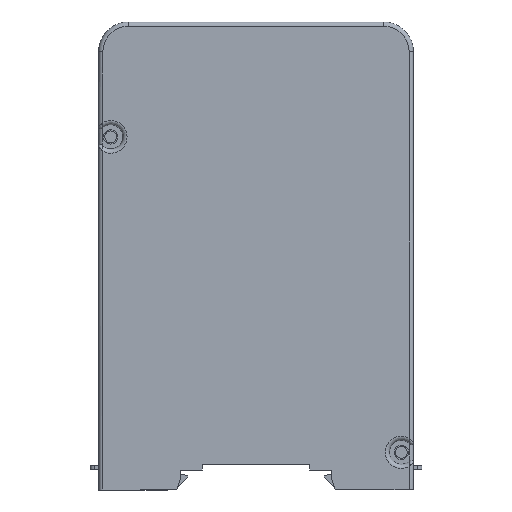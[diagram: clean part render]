
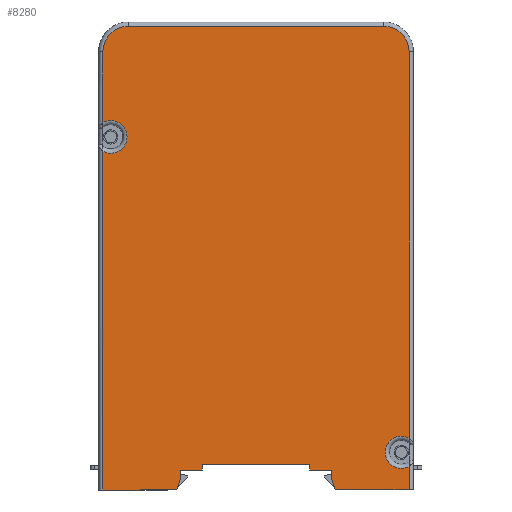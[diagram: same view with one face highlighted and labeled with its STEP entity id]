
A CAD part, left-side view. The second image highlights one B-rep face of the part: STEP entity #8280.
In plain terms, the highlighted planar face has unit normal (-1, 0, 0).
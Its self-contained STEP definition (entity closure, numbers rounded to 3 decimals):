
#201=CIRCLE('',#8729,3.8);
#229=CIRCLE('',#8787,3.85);
#230=CIRCLE('',#8788,6.);
#231=CIRCLE('',#8789,6.);
#572=FACE_OUTER_BOUND('',#959,.T.);
#959=EDGE_LOOP('',(#6826,#6827,#6828,#6829,#6830,#6831,#6832,#6833,#6834,
#6835,#6836,#6837,#6838,#6839,#6840,#6841,#6842,#6843,#6844,#6845));
#1605=LINE('',#13591,#2711);
#1719=LINE('',#13847,#2825);
#1743=LINE('',#13900,#2849);
#1758=LINE('',#13930,#2864);
#1762=LINE('',#13938,#2868);
#1769=LINE('',#13952,#2875);
#1775=LINE('',#13962,#2881);
#1782=LINE('',#13976,#2888);
#1791=LINE('',#13995,#2897);
#1795=LINE('',#14004,#2901);
#1801=LINE('',#14014,#2907);
#1802=LINE('',#14019,#2908);
#1803=LINE('',#14020,#2909);
#1804=LINE('',#14022,#2910);
#1805=LINE('',#14026,#2911);
#1806=LINE('',#14029,#2912);
#2711=VECTOR('',#10010,17.35);
#2825=VECTOR('',#10170,3.162);
#2849=VECTOR('',#10210,17.35);
#2864=VECTOR('',#10227,3.162);
#2868=VECTOR('',#10233,1.7);
#2875=VECTOR('',#10242,5.);
#2881=VECTOR('',#10250,1.3);
#2888=VECTOR('',#10259,25.3);
#2897=VECTOR('',#10274,1.3);
#2901=VECTOR('',#10280,5.);
#2907=VECTOR('',#10288,1.7);
#2908=VECTOR('',#10293,79.624);
#2909=VECTOR('',#10294,5.531);
#2910=VECTOR('',#10295,90.831);
#2911=VECTOR('',#10298,60.);
#2912=VECTOR('',#10301,16.624);
#3767=VERTEX_POINT('',#13503);
#3768=VERTEX_POINT('',#13517);
#3792=VERTEX_POINT('',#13588);
#3793=VERTEX_POINT('',#13590);
#3912=VERTEX_POINT('',#13845);
#3932=VERTEX_POINT('',#13897);
#3933=VERTEX_POINT('',#13899);
#3947=VERTEX_POINT('',#13929);
#3950=VERTEX_POINT('',#13937);
#3956=VERTEX_POINT('',#13951);
#3959=VERTEX_POINT('',#13959);
#3965=VERTEX_POINT('',#13975);
#3972=VERTEX_POINT('',#13993);
#3976=VERTEX_POINT('',#14003);
#3980=VERTEX_POINT('',#14016);
#3981=VERTEX_POINT('',#14017);
#3982=VERTEX_POINT('',#14021);
#3983=VERTEX_POINT('',#14023);
#3984=VERTEX_POINT('',#14025);
#3985=VERTEX_POINT('',#14027);
#4886=EDGE_CURVE('',#3768,#3767,#201,.T.);
#4911=EDGE_CURVE('',#3792,#3793,#1605,.T.);
#5038=EDGE_CURVE('',#3912,#3792,#1719,.T.);
#5065=EDGE_CURVE('',#3932,#3933,#1743,.T.);
#5080=EDGE_CURVE('',#3933,#3947,#1758,.T.);
#5084=EDGE_CURVE('',#3947,#3950,#1762,.T.);
#5091=EDGE_CURVE('',#3950,#3956,#1769,.T.);
#5097=EDGE_CURVE('',#3956,#3959,#1775,.T.);
#5104=EDGE_CURVE('',#3959,#3965,#1782,.T.);
#5115=EDGE_CURVE('',#3965,#3972,#1791,.T.);
#5119=EDGE_CURVE('',#3972,#3976,#1795,.T.);
#5125=EDGE_CURVE('',#3976,#3912,#1801,.T.);
#5126=EDGE_CURVE('',#3980,#3981,#229,.T.);
#5127=EDGE_CURVE('',#3981,#3793,#1802,.T.);
#5128=EDGE_CURVE('',#3932,#3768,#1803,.T.);
#5129=EDGE_CURVE('',#3767,#3982,#1804,.T.);
#5130=EDGE_CURVE('',#3982,#3983,#230,.T.);
#5131=EDGE_CURVE('',#3983,#3984,#1805,.T.);
#5132=EDGE_CURVE('',#3984,#3985,#231,.T.);
#5133=EDGE_CURVE('',#3985,#3980,#1806,.T.);
#6826=ORIENTED_EDGE('',*,*,#5126,.T.);
#6827=ORIENTED_EDGE('',*,*,#5127,.T.);
#6828=ORIENTED_EDGE('',*,*,#4911,.F.);
#6829=ORIENTED_EDGE('',*,*,#5038,.F.);
#6830=ORIENTED_EDGE('',*,*,#5125,.F.);
#6831=ORIENTED_EDGE('',*,*,#5119,.F.);
#6832=ORIENTED_EDGE('',*,*,#5115,.F.);
#6833=ORIENTED_EDGE('',*,*,#5104,.F.);
#6834=ORIENTED_EDGE('',*,*,#5097,.F.);
#6835=ORIENTED_EDGE('',*,*,#5091,.F.);
#6836=ORIENTED_EDGE('',*,*,#5084,.F.);
#6837=ORIENTED_EDGE('',*,*,#5080,.F.);
#6838=ORIENTED_EDGE('',*,*,#5065,.F.);
#6839=ORIENTED_EDGE('',*,*,#5128,.T.);
#6840=ORIENTED_EDGE('',*,*,#4886,.T.);
#6841=ORIENTED_EDGE('',*,*,#5129,.T.);
#6842=ORIENTED_EDGE('',*,*,#5130,.T.);
#6843=ORIENTED_EDGE('',*,*,#5131,.T.);
#6844=ORIENTED_EDGE('',*,*,#5132,.T.);
#6845=ORIENTED_EDGE('',*,*,#5133,.T.);
#7957=PLANE('',#8786);
#8280=ADVANCED_FACE('',(#572),#7957,.F.);
#8729=AXIS2_PLACEMENT_3D('',#13518,#9967,#9968);
#8786=AXIS2_PLACEMENT_3D('',#14015,#10289,#10290);
#8787=AXIS2_PLACEMENT_3D('',#14018,#10291,#10292);
#8788=AXIS2_PLACEMENT_3D('',#14024,#10296,#10297);
#8789=AXIS2_PLACEMENT_3D('',#14028,#10299,#10300);
#9967=DIRECTION('center_axis',(1.,0.,0.));
#9968=DIRECTION('ref_axis',(0.,1.,0.));
#10010=DIRECTION('',(0.,1.,0.));
#10170=DIRECTION('',(0.,0.316,-0.949));
#10210=DIRECTION('',(0.,1.,0.));
#10227=DIRECTION('',(0.,0.316,0.949));
#10233=DIRECTION('',(0.,0.,1.));
#10242=DIRECTION('',(0.,1.,0.));
#10250=DIRECTION('',(0.,0.,1.));
#10259=DIRECTION('',(0.,1.,0.));
#10274=DIRECTION('',(0.,0.,-1.));
#10280=DIRECTION('',(0.,1.,0.));
#10288=DIRECTION('',(0.,0.,-1.));
#10289=DIRECTION('center_axis',(1.,0.,0.));
#10290=DIRECTION('ref_axis',(0.,1.,0.));
#10291=DIRECTION('center_axis',(1.,0.,0.));
#10292=DIRECTION('ref_axis',(0.,1.,0.));
#10293=DIRECTION('',(0.,0.,-1.));
#10294=DIRECTION('',(0.,0.,1.));
#10295=DIRECTION('',(0.,0.,1.));
#10296=DIRECTION('center_axis',(-1.,0.,0.));
#10297=DIRECTION('ref_axis',(0.,1.,0.));
#10298=DIRECTION('',(0.,1.,0.));
#10299=DIRECTION('center_axis',(-1.,0.,0.));
#10300=DIRECTION('ref_axis',(0.,1.,0.));
#10301=DIRECTION('',(0.,0.,-1.));
#13503=CARTESIAN_POINT('',(33.75,-36.,7.669));
#13517=CARTESIAN_POINT('',(33.75,-36.,1.031));
#13518=CARTESIAN_POINT('Origin',(33.75,-34.15,4.35));
#13588=CARTESIAN_POINT('',(33.75,18.65,-4.5));
#13590=CARTESIAN_POINT('',(33.75,36.,-4.5));
#13591=CARTESIAN_POINT('',(33.75,18.65,-4.5));
#13845=CARTESIAN_POINT('',(33.75,17.65,-1.5));
#13847=CARTESIAN_POINT('',(33.75,17.65,-1.5));
#13897=CARTESIAN_POINT('',(33.75,-36.,-4.5));
#13899=CARTESIAN_POINT('',(33.75,-18.65,-4.5));
#13900=CARTESIAN_POINT('',(33.75,-37.,-4.5));
#13929=CARTESIAN_POINT('',(33.75,-17.65,-1.5));
#13930=CARTESIAN_POINT('',(33.75,-18.65,-4.5));
#13937=CARTESIAN_POINT('',(33.75,-17.65,0.2));
#13938=CARTESIAN_POINT('',(33.75,-17.65,-1.5));
#13951=CARTESIAN_POINT('',(33.75,-12.65,0.2));
#13952=CARTESIAN_POINT('',(33.75,-17.65,0.2));
#13959=CARTESIAN_POINT('',(33.75,-12.65,1.5));
#13962=CARTESIAN_POINT('',(33.75,-12.65,0.2));
#13975=CARTESIAN_POINT('',(33.75,12.65,1.5));
#13976=CARTESIAN_POINT('',(33.75,-12.65,1.5));
#13993=CARTESIAN_POINT('',(33.75,12.65,0.2));
#13995=CARTESIAN_POINT('',(33.75,12.65,1.5));
#14003=CARTESIAN_POINT('',(33.75,17.65,0.2));
#14004=CARTESIAN_POINT('',(33.75,12.65,0.2));
#14014=CARTESIAN_POINT('',(33.75,17.65,0.2));
#14015=CARTESIAN_POINT('Origin',(33.75,30.,98.5));
#14016=CARTESIAN_POINT('',(33.75,36.,81.876));
#14017=CARTESIAN_POINT('',(33.75,36.,75.124));
#14018=CARTESIAN_POINT('Origin',(33.75,34.15,78.5));
#14019=CARTESIAN_POINT('',(33.75,36.,98.5));
#14020=CARTESIAN_POINT('',(33.75,-36.,98.5));
#14021=CARTESIAN_POINT('',(33.75,-36.,98.5));
#14022=CARTESIAN_POINT('',(33.75,-36.,98.5));
#14023=CARTESIAN_POINT('',(33.75,-30.,104.5));
#14024=CARTESIAN_POINT('Origin',(33.75,-30.,98.5));
#14025=CARTESIAN_POINT('',(33.75,30.,104.5));
#14026=CARTESIAN_POINT('',(33.75,30.,104.5));
#14027=CARTESIAN_POINT('',(33.75,36.,98.5));
#14028=CARTESIAN_POINT('Origin',(33.75,30.,98.5));
#14029=CARTESIAN_POINT('',(33.75,36.,98.5));
